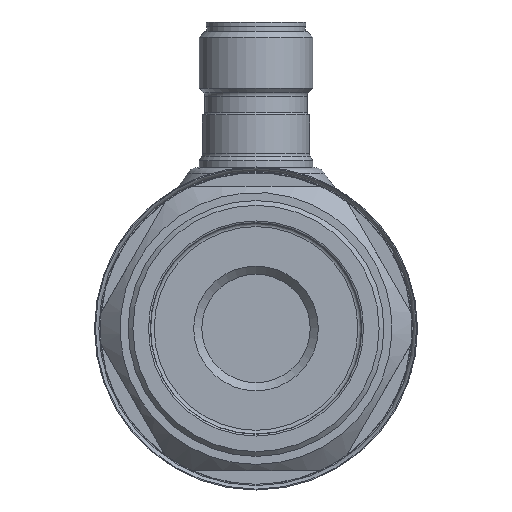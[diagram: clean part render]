
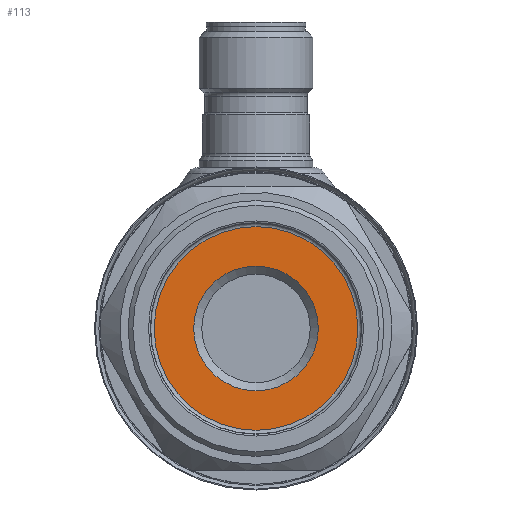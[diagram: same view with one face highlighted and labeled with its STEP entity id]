
A CAD part, front view. The second image highlights one B-rep face of the part: STEP entity #113.
In plain terms, the highlighted planar face has unit normal (0, -1, 0).
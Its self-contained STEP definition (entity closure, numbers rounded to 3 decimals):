
#113 = ADVANCED_FACE( '', ( #336, #337 ), #338, .F. );
#336 = FACE_BOUND( '', #754, .T. );
#337 = FACE_OUTER_BOUND( '', #755, .T. );
#338 = PLANE( '', #756 );
#754 = EDGE_LOOP( '', ( #1396 ) );
#755 = EDGE_LOOP( '', ( #1397 ) );
#756 = AXIS2_PLACEMENT_3D( '', #1398, #1399, #1400 );
#1396 = ORIENTED_EDGE( '', *, *, #2522, .F. );
#1397 = ORIENTED_EDGE( '', *, *, #2528, .T. );
#1398 = CARTESIAN_POINT( '', ( 10.75, 0.5, 0. ) );
#1399 = DIRECTION( '', ( 0., 1., 0. ) );
#1400 = DIRECTION( '', ( 0., 0., 1. ) );
#2522 = EDGE_CURVE( '', #3016, #3016, #3017, .T. );
#2528 = EDGE_CURVE( '', #3027, #3027, #3028, .T. );
#3016 = VERTEX_POINT( '', #4041 );
#3017 = CIRCLE( '', #4042, 6.579 );
#3027 = VERTEX_POINT( '', #4055 );
#3028 = CIRCLE( '', #4056, 10.75 );
#4041 = CARTESIAN_POINT( '', ( 0., 0.5, -6.579 ) );
#4042 = AXIS2_PLACEMENT_3D( '', #4929, #4930, #4931 );
#4055 = CARTESIAN_POINT( '', ( 0., 0.5, -10.75 ) );
#4056 = AXIS2_PLACEMENT_3D( '', #4941, #4942, #4943 );
#4929 = CARTESIAN_POINT( '', ( 0., 0.5, 0. ) );
#4930 = DIRECTION( '', ( 0., -1., 0. ) );
#4931 = DIRECTION( '', ( 0., 0., -1. ) );
#4941 = CARTESIAN_POINT( '', ( 0., 0.5, 0. ) );
#4942 = DIRECTION( '', ( 0., -1., 0. ) );
#4943 = DIRECTION( '', ( 0., 0., -1. ) );
